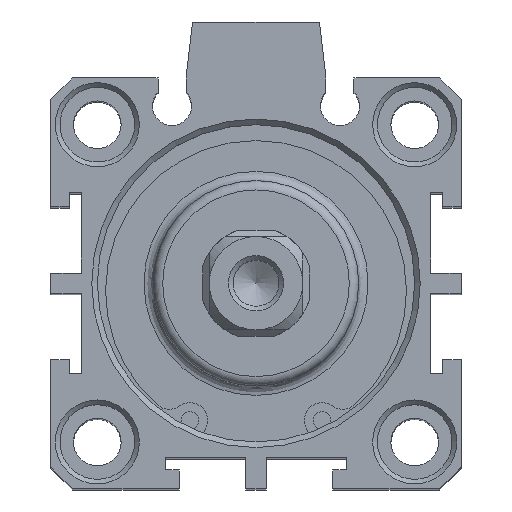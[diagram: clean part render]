
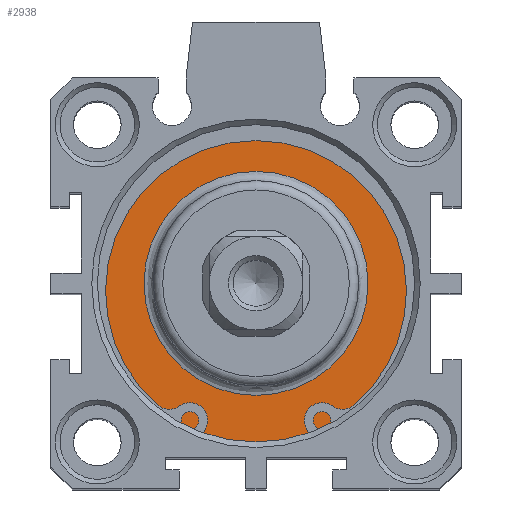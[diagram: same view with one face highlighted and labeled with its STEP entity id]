
A CAD part, top view. The second image highlights one B-rep face of the part: STEP entity #2938.
In plain terms, the highlighted planar face has unit normal (0, 0, 1).
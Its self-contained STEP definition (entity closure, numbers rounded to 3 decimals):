
#2887=CARTESIAN_POINT('',(-3.726,11.88,80.3));
#2888=VERTEX_POINT('',#2887);
#2889=CARTESIAN_POINT('',(-3.726,-0.12,80.3));
#2890=DIRECTION('',(0.0,0.0,1.0));
#2891=DIRECTION('',(0.0,-1.0,0.0));
#2892=AXIS2_PLACEMENT_3D('',#2889,#2890,#2891);
#2893=CIRCLE('',#2892,12.);
#2894=EDGE_CURVE('',#2888,#2888,#2893,.T.);
#2919=CARTESIAN_POINT('',(-3.726,13.88,80.3));
#2920=DIRECTION('',(0.0,0.0,1.0));
#2921=DIRECTION('',(1.0,0.0,0.0));
#2922=AXIS2_PLACEMENT_3D('',#2919,#2920,#2921);
#2923=PLANE('',#2922);
#2924=CARTESIAN_POINT('',(-3.726,16.88,80.3));
#2925=VERTEX_POINT('',#2924);
#2926=CARTESIAN_POINT('',(-3.726,-0.12,80.3));
#2927=DIRECTION('',(0.0,0.0,-1.0));
#2928=DIRECTION('',(0.0,1.0,0.0));
#2929=AXIS2_PLACEMENT_3D('',#2926,#2927,#2928);
#2930=CIRCLE('',#2929,17.);
#2931=EDGE_CURVE('',#2925,#2925,#2930,.T.);
#2932=ORIENTED_EDGE('',*,*,#2931,.F.);
#2933=EDGE_LOOP('',(#2932));
#2934=FACE_OUTER_BOUND('',#2933,.T.);
#2935=ORIENTED_EDGE('',*,*,#2894,.F.);
#2936=EDGE_LOOP('',(#2935));
#2937=FACE_BOUND('',#2936,.T.);
#2938=ADVANCED_FACE('',(#2934,#2937),#2923,.T.);
